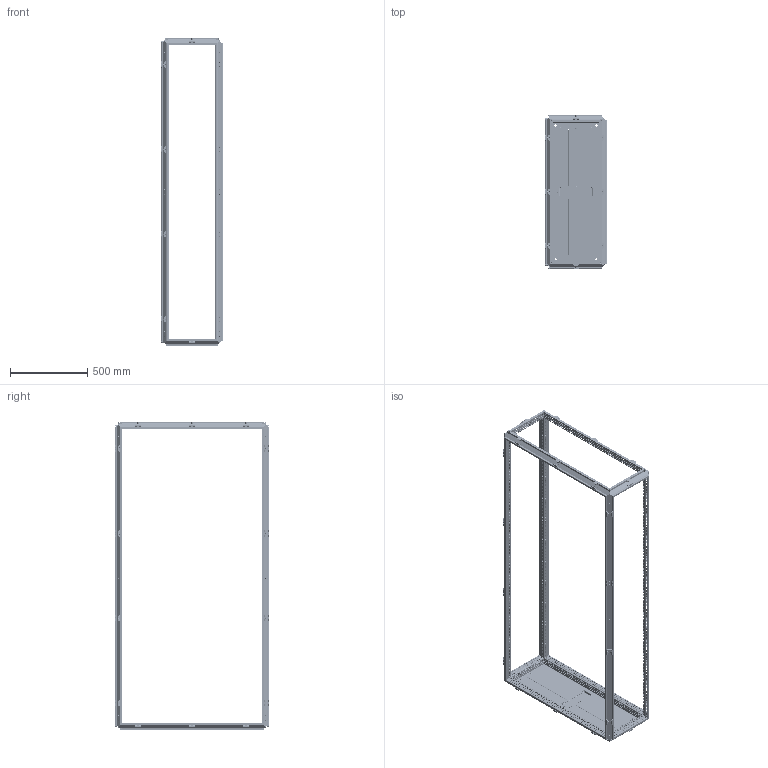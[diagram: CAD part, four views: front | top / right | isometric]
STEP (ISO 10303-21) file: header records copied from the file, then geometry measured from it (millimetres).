
FILE_DESCRIPTION(('STEP AP203'), '1');
FILE_NAME('3000 忺謤僔 捘', '', ('UNSPECIFIED'), ('UNSPECIFIED'), 'C3D Converter', 'C3D Toolkit', '');
FILE_SCHEMA(('CONFIG_CONTROL_DESIGN'));
Length unit declared in the file: millimetre
Products named in the file (13): 3000.200.100.40 СБ; 3000; 3007.175; 3007.75; 3006; 3009.04; 3009.04.01; 3009.04.2; 3009.04.01.2
Assembly tree (138 placements, depth 3):
  3000.200.100.40 СБ
    3000
    (unnamed)  x88
    3007.175  x2
    (unnamed)  x14
    3007.75  x2
    3006
    3009.04  x8
      3009.04.01
      (unnamed)
      (unnamed)
    3009.04.2  x13
      3009.04.01.2
      (unnamed)
      (unnamed)
Bounding box: 397 x 997 x 1998.5 mm (x, y, z)
Volume: 3866216.4 mm3; surface area: 5139819.3 mm2
Topology: 221 solids, 221 shells, 17163 faces, 48163 edges, 31768 vertices
Faces by surface type: plane 11997, cylinder 4198, cone 624, torus 244, bspline 100
Full cylindrical faces by diameter (mm): 4.134 x122, 4.5 x1990, 4.8 x14, 5 x132, 5.8 x34, 6.8 x176, 7 x88, 7.5 x42, 8 x88, 9.2 x42, 10.106 x8, 14 x4
Entity records: 400378 total; most frequent: CARTESIAN_POINT 73827, ORIENTED_EDGE 64342, DIRECTION 60841, EDGE_CURVE 32171, LINE 26455, VECTOR 26455, VERTEX_POINT 22662, EDGE_LOOP 21955
